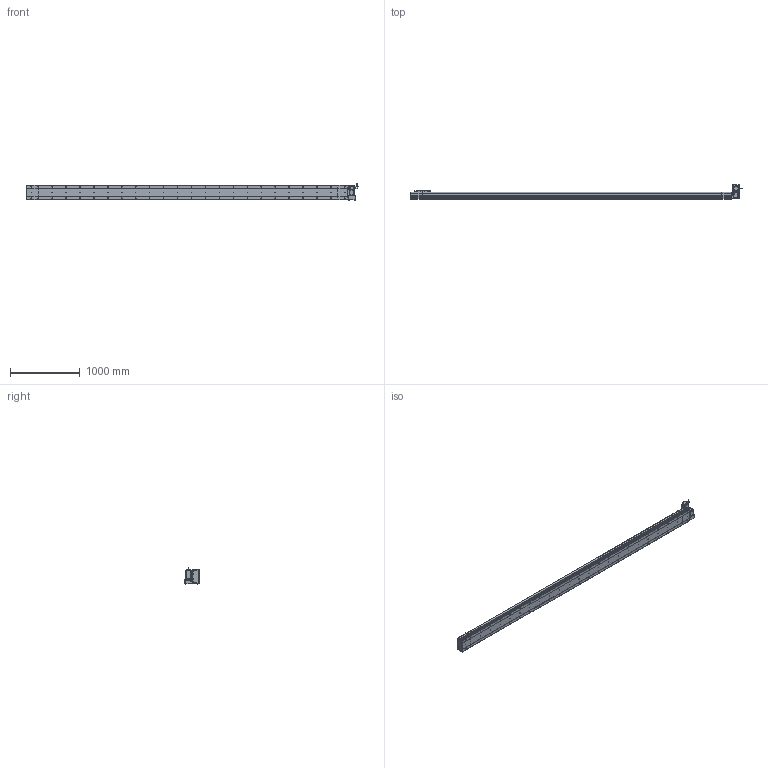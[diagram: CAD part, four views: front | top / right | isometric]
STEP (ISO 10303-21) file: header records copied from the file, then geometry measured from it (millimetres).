
FILE_DESCRIPTION (( 'STEP AP214' ), '1' );
FILE_NAME ('D20 CBH RT S4300.STEP', '2010-06-30T11:31:04', ( 'Conseil Régional Haute-Normandie' ), ( 'Conseil Régional Haute-Normandie' ), 'SwSTEP 2.0', 'SolidWorks 2010', '' );
FILE_SCHEMA (( 'AUTOMOTIVE_DESIGN' ));
Length unit declared in the file: millimetre
Products named in the file (31): Support Chariot D20_Default; ecrou_Default; Cache Support Moteur RT_Default; vis M5 L47_Default; Conecteur_Default; Couvercle_Default; Corp Tail D20+100_Default; Tail D20+100_Default; vis M5 L15_Default; Plaque De Serrage D20_Default; Plaque de Bout Tail D20_Default; codeur 90BLDC125-640; Glissiere_Default; vis M5 L30_Default; Couvercle S4300_Default; Plaque De Serrage D20 RT_Default; Rondelle Cache D20 RT_Default; Chariot D20_Default; D20 CBH RT S4300; Conecteur2_Default; Support moteur RT_Default; Head RT_Default; Corp Tail D20 RT_Default; Couvercle RT_Default; Plaque de Bout Head D20 RT_Default; Corp S4300_Default; Corp D20 S4300_Default; Moteur motionking 90BLDC125A-640; avant 90BLDC125A-640; corps 90BLDC125A-640
Assembly tree (68 placements, depth 4):
  D20 CBH RT S4300
    Tail D20+100_Default
      vis M5 L15_Default  x6
      Plaque De Serrage D20_Default
      Couvercle_Default
      Plaque de Bout Tail D20_Default
      Corp Tail D20+100_Default
    Head RT_Default
      Moteur motionking 90BLDC125A-640
        avant 90BLDC125A-640
        Conecteur_Default
        codeur 90BLDC125-640
        corps 90BLDC125A-640
        Conecteur2_Default
      vis M5 L15_Default  x14
      vis M5 L30_Default  x4
      Corp Tail D20 RT_Default
      Rondelle Cache D20 RT_Default  x3
      vis M5 L47_Default  x4
      ecrou_Default  x4
      Support moteur RT_Default
      Plaque De Serrage D20 RT_Default
      Couvercle RT_Default
      Plaque de Bout Head D20 RT_Default
      Cache Support Moteur RT_Default
    Chariot D20_Default
      Support Chariot D20_Default
      Glissiere_Default
      Chariot D20_Default
      vis M5 L15_Default  x8
    Corp D20 S4300_Default
      Corp S4300_Default
      Couvercle S4300_Default
Bounding box: 4764.45 x 206.5 x 229.7 mm (x, y, z)
Volume: 31454058.2 mm3; surface area: 5980519.9 mm2
Topology: 105 solids, 105 shells, 3928 faces, 9732 edges, 6322 vertices
Faces by surface type: plane 2167, bspline 806, cylinder 784, torus 95, cone 72, sphere 4
Entity records: 162470 total; most frequent: CARTESIAN_POINT 82814, ORIENTED_EDGE 15732, DIRECTION 12214, EDGE_CURVE 7866, VERTEX_POINT 5206, VECTOR 5026, LINE 5026, AXIS2_PLACEMENT_3D 3594
